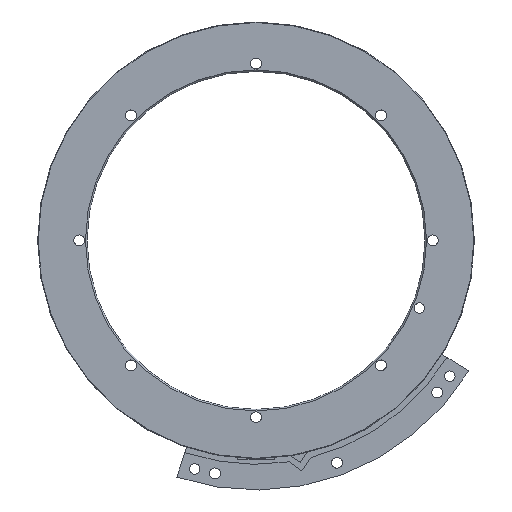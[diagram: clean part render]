
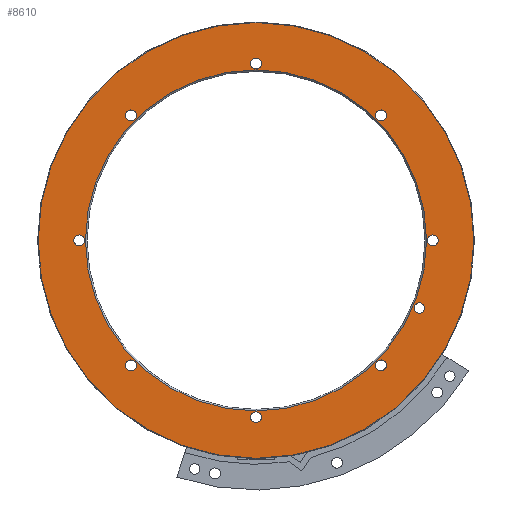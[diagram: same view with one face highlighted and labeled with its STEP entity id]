
A CAD part, front view. The second image highlights one B-rep face of the part: STEP entity #8610.
In plain terms, the highlighted planar face has unit normal (0, -1, 0).
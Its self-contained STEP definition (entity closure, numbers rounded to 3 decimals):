
#149 = AXIS2_PLACEMENT_3D ( 'NONE', #1150, #3998, #2592 ) ;
#245 = AXIS2_PLACEMENT_3D ( 'NONE', #5694, #5602, #4862 ) ;
#423 = AXIS2_PLACEMENT_3D ( 'NONE', #5687, #3603, #6938 ) ;
#574 = VERTEX_POINT ( 'NONE', #3417 ) ;
#754 = EDGE_LOOP ( 'NONE', ( #5505 ) ) ;
#835 = DIRECTION ( 'NONE',  ( 0., 0., 1. ) ) ;
#840 = ORIENTED_EDGE ( 'NONE', *, *, #3708, .T. ) ;
#915 = CARTESIAN_POINT ( 'NONE',  ( 31.412, -3.8, -13.011 ) ) ;
#986 = EDGE_CURVE ( 'NONE', #3897, #3897, #6651, .T. ) ;
#1013 = AXIS2_PLACEMENT_3D ( 'NONE', #9159, #9066, #2696 ) ;
#1049 = CARTESIAN_POINT ( 'NONE',  ( -34., -3.8, 1.05 ) ) ;
#1096 = EDGE_CURVE ( 'NONE', #4540, #4540, #3080, .T. ) ;
#1150 = CARTESIAN_POINT ( 'NONE',  ( 34., -3.8, 0. ) ) ;
#1170 = ORIENTED_EDGE ( 'NONE', *, *, #2073, .T. ) ;
#1176 = EDGE_CURVE ( 'NONE', #4595, #4595, #5753, .T. ) ;
#1199 = EDGE_LOOP ( 'NONE', ( #6744 ) ) ;
#1215 = EDGE_CURVE ( 'NONE', #5334, #5334, #4426, .T. ) ;
#1229 = CARTESIAN_POINT ( 'NONE',  ( 32.8, -3.8, 0. ) ) ;
#1417 = EDGE_LOOP ( 'NONE', ( #2776 ) ) ;
#1737 = AXIS2_PLACEMENT_3D ( 'NONE', #6124, #3989, #8914 ) ;
#1834 = DIRECTION ( 'NONE',  ( 0., 1., 0. ) ) ;
#1930 = CARTESIAN_POINT ( 'NONE',  ( 0., -3.8, -32.95 ) ) ;
#1948 = FACE_BOUND ( 'NONE', #3419, .T. ) ;
#1987 = CARTESIAN_POINT ( 'NONE',  ( 0., -3.8, -34. ) ) ;
#2042 = AXIS2_PLACEMENT_3D ( 'NONE', #2497, #1834, #4676 ) ;
#2073 = EDGE_CURVE ( 'NONE', #5605, #5605, #8292, .T. ) ;
#2351 = ORIENTED_EDGE ( 'NONE', *, *, #1215, .T. ) ;
#2497 = CARTESIAN_POINT ( 'NONE',  ( -24.042, -3.8, 24.042 ) ) ;
#2528 = VERTEX_POINT ( 'NONE', #8109 ) ;
#2592 = DIRECTION ( 'NONE',  ( 0., 0., 1. ) ) ;
#2630 = VERTEX_POINT ( 'NONE', #4118 ) ;
#2696 = DIRECTION ( 'NONE',  ( 0., 0., 1. ) ) ;
#2776 = ORIENTED_EDGE ( 'NONE', *, *, #5366, .T. ) ;
#2793 = FACE_BOUND ( 'NONE', #7933, .T. ) ;
#2842 = FACE_BOUND ( 'NONE', #1417, .T. ) ;
#2864 = EDGE_CURVE ( 'NONE', #6865, #6865, #8607, .T. ) ;
#2876 = DIRECTION ( 'NONE',  ( 0., 1., 0. ) ) ;
#2935 = AXIS2_PLACEMENT_3D ( 'NONE', #6419, #2876, #6915 ) ;
#2969 = CARTESIAN_POINT ( 'NONE',  ( 24.042, -3.8, 24.042 ) ) ;
#2996 = ORIENTED_EDGE ( 'NONE', *, *, #2864, .F. ) ;
#3080 = CIRCLE ( 'NONE', #6505, 1. ) ;
#3244 = AXIS2_PLACEMENT_3D ( 'NONE', #1987, #4833, #6730 ) ;
#3302 = EDGE_LOOP ( 'NONE', ( #8508 ) ) ;
#3393 = FACE_OUTER_BOUND ( 'NONE', #754, .T. ) ;
#3417 = CARTESIAN_POINT ( 'NONE',  ( 34., -3.8, 1.05 ) ) ;
#3419 = EDGE_LOOP ( 'NONE', ( #5770 ) ) ;
#3476 = EDGE_CURVE ( 'NONE', #574, #574, #7589, .T. ) ;
#3538 = DIRECTION ( 'NONE',  ( 0., 0., 1. ) ) ;
#3539 = FACE_BOUND ( 'NONE', #4158, .T. ) ;
#3577 = ORIENTED_EDGE ( 'NONE', *, *, #1096, .T. ) ;
#3603 = DIRECTION ( 'NONE',  ( 0., -1., 0. ) ) ;
#3708 = EDGE_CURVE ( 'NONE', #5553, #5553, #7738, .T. ) ;
#3734 = AXIS2_PLACEMENT_3D ( 'NONE', #2969, #4460, #7995 ) ;
#3897 = VERTEX_POINT ( 'NONE', #5243 ) ;
#3989 = DIRECTION ( 'NONE',  ( 0., 1., 0. ) ) ;
#3998 = DIRECTION ( 'NONE',  ( 0., 1., 0. ) ) ;
#4118 = CARTESIAN_POINT ( 'NONE',  ( -24.042, -3.8, -22.992 ) ) ;
#4158 = EDGE_LOOP ( 'NONE', ( #3577 ) ) ;
#4168 = CARTESIAN_POINT ( 'NONE',  ( -24.042, -3.8, 25.092 ) ) ;
#4426 = CIRCLE ( 'NONE', #2042, 1.05 ) ;
#4460 = DIRECTION ( 'NONE',  ( 0., 1., 0. ) ) ;
#4463 = DIRECTION ( 'NONE',  ( 0., 1., 0. ) ) ;
#4540 = VERTEX_POINT ( 'NONE', #8123 ) ;
#4595 = VERTEX_POINT ( 'NONE', #1049 ) ;
#4676 = DIRECTION ( 'NONE',  ( 0., 0., 1. ) ) ;
#4790 = FACE_BOUND ( 'NONE', #9126, .T. ) ;
#4833 = DIRECTION ( 'NONE',  ( 0., 1., 0. ) ) ;
#4862 = DIRECTION ( 'NONE',  ( 0., 0., 1. ) ) ;
#4866 = CARTESIAN_POINT ( 'NONE',  ( 24.042, -3.8, 25.092 ) ) ;
#4889 = FACE_BOUND ( 'NONE', #1199, .T. ) ;
#4985 = DIRECTION ( 'NONE',  ( 0., 1., 0. ) ) ;
#5010 = EDGE_LOOP ( 'NONE', ( #2996 ) ) ;
#5030 = ORIENTED_EDGE ( 'NONE', *, *, #1176, .T. ) ;
#5147 = EDGE_LOOP ( 'NONE', ( #5030 ) ) ;
#5243 = CARTESIAN_POINT ( 'NONE',  ( 24.042, -3.8, -22.992 ) ) ;
#5334 = VERTEX_POINT ( 'NONE', #4168 ) ;
#5366 = EDGE_CURVE ( 'NONE', #2630, #2630, #6465, .T. ) ;
#5505 = ORIENTED_EDGE ( 'NONE', *, *, #7755, .F. ) ;
#5553 = VERTEX_POINT ( 'NONE', #4866 ) ;
#5602 = DIRECTION ( 'NONE',  ( 0., 1., 0. ) ) ;
#5605 = VERTEX_POINT ( 'NONE', #1930 ) ;
#5627 = CARTESIAN_POINT ( 'NONE',  ( 0., -3.8, 34. ) ) ;
#5687 = CARTESIAN_POINT ( 'NONE',  ( 0., -3.8, 0. ) ) ;
#5694 = CARTESIAN_POINT ( 'NONE',  ( 0., -3.8, 0. ) ) ;
#5753 = CIRCLE ( 'NONE', #1737, 1.05 ) ;
#5770 = ORIENTED_EDGE ( 'NONE', *, *, #3476, .T. ) ;
#6124 = CARTESIAN_POINT ( 'NONE',  ( -34., -3.8, 0. ) ) ;
#6162 = VERTEX_POINT ( 'NONE', #9091 ) ;
#6272 = EDGE_LOOP ( 'NONE', ( #1170 ) ) ;
#6278 = FACE_BOUND ( 'NONE', #6272, .T. ) ;
#6324 = FACE_BOUND ( 'NONE', #3302, .T. ) ;
#6419 = CARTESIAN_POINT ( 'NONE',  ( 24.042, -3.8, -24.042 ) ) ;
#6465 = CIRCLE ( 'NONE', #7347, 1.05 ) ;
#6505 = AXIS2_PLACEMENT_3D ( 'NONE', #915, #4463, #7197 ) ;
#6651 = CIRCLE ( 'NONE', #2935, 1.05 ) ;
#6730 = DIRECTION ( 'NONE',  ( 0., 0., 1. ) ) ;
#6744 = ORIENTED_EDGE ( 'NONE', *, *, #986, .T. ) ;
#6865 = VERTEX_POINT ( 'NONE', #1229 ) ;
#6915 = DIRECTION ( 'NONE',  ( 0., 0., 1. ) ) ;
#6938 = DIRECTION ( 'NONE',  ( 1., 0., 0. ) ) ;
#6961 = EDGE_CURVE ( 'NONE', #6162, #6162, #7521, .T. ) ;
#7197 = DIRECTION ( 'NONE',  ( 0., 0., 1. ) ) ;
#7347 = AXIS2_PLACEMENT_3D ( 'NONE', #7774, #4985, #835 ) ;
#7521 = CIRCLE ( 'NONE', #7668, 1.05 ) ;
#7589 = CIRCLE ( 'NONE', #149, 1.05 ) ;
#7668 = AXIS2_PLACEMENT_3D ( 'NONE', #5627, #8649, #3538 ) ;
#7723 = PLANE ( 'NONE',  #1013 ) ;
#7738 = CIRCLE ( 'NONE', #3734, 1.05 ) ;
#7755 = EDGE_CURVE ( 'NONE', #2528, #2528, #8580, .T. ) ;
#7766 = FACE_BOUND ( 'NONE', #5010, .T. ) ;
#7774 = CARTESIAN_POINT ( 'NONE',  ( -24.042, -3.8, -24.042 ) ) ;
#7933 = EDGE_LOOP ( 'NONE', ( #840 ) ) ;
#7995 = DIRECTION ( 'NONE',  ( 0., 0., 1. ) ) ;
#8109 = CARTESIAN_POINT ( 'NONE',  ( 0., -3.8, 41.9 ) ) ;
#8123 = CARTESIAN_POINT ( 'NONE',  ( 31.412, -3.8, -12.011 ) ) ;
#8292 = CIRCLE ( 'NONE', #3244, 1.05 ) ;
#8508 = ORIENTED_EDGE ( 'NONE', *, *, #6961, .T. ) ;
#8580 = CIRCLE ( 'NONE', #245, 41.9 ) ;
#8607 = CIRCLE ( 'NONE', #423, 32.8 ) ;
#8610 = ADVANCED_FACE ( 'NONE', ( #7766, #3539, #1948, #2793, #6324, #4790, #9209, #2842, #4889, #6278, #3393 ), #7723, .F. ) ;
#8649 = DIRECTION ( 'NONE',  ( 0., 1., 0. ) ) ;
#8914 = DIRECTION ( 'NONE',  ( 0., 0., 1. ) ) ;
#9066 = DIRECTION ( 'NONE',  ( 0., 1., 0. ) ) ;
#9091 = CARTESIAN_POINT ( 'NONE',  ( 0., -3.8, 35.05 ) ) ;
#9126 = EDGE_LOOP ( 'NONE', ( #2351 ) ) ;
#9159 = CARTESIAN_POINT ( 'NONE',  ( 0., -3.8, 0. ) ) ;
#9209 = FACE_BOUND ( 'NONE', #5147, .T. ) ;
